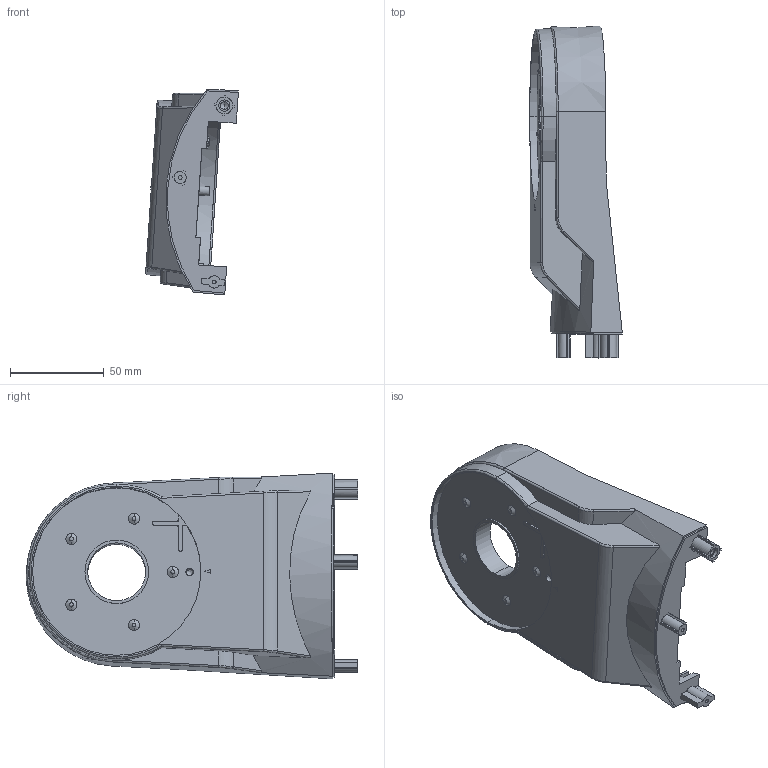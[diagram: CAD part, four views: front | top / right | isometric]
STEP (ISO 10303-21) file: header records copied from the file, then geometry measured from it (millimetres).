
FILE_DESCRIPTION (( 'STEP AP203' ), '1' );
FILE_NAME ('branche motorisée_2_Défaut_sldprt.STEP', '2018-04-06T14:28:59', ( '' ), ( '' ), 'SwSTEP 2.0', 'SolidWorks 2013', '' );
FILE_SCHEMA (( 'CONFIG_CONTROL_DESIGN' ));
Length unit declared in the file: millimetre
Products named in the file (1): branche motorisée_2_Défaut_sldprt
Bounding box: 49.59 x 177.46 x 110.04 mm (x, y, z)
Surface area: 65147.4 mm2 (no closed solid volume)
Topology: 0 solids, 6 shells, 290 faces, 784 edges, 515 vertices
Faces by surface type: plane 178, cylinder 68, cone 24, bspline 16, torus 4
Entity records: 9636 total; most frequent: CARTESIAN_POINT 2452, ORIENTED_EDGE 1546, DIRECTION 1400, EDGE_CURVE 778, VERTEX_POINT 515, VECTOR 494, LINE 494, AXIS2_PLACEMENT_3D 453
